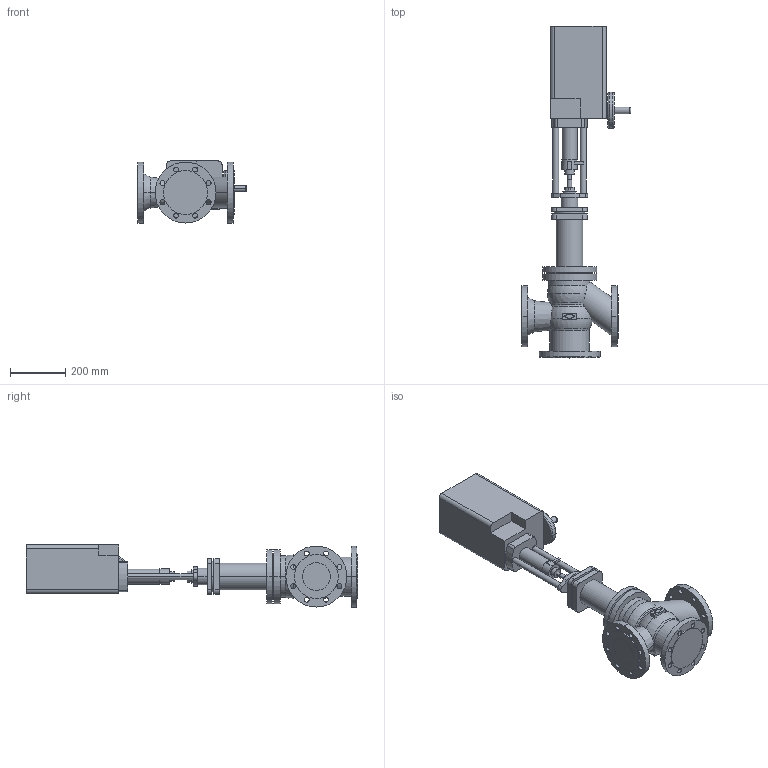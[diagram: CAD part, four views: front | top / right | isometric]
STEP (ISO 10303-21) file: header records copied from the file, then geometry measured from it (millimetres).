
FILE_DESCRIPTION(('OneSpaceDesigner STEP Export'),'2;1');
FILE_NAME('c000002458.stp','2006-09-21T11:52:55',(''),(''),'OneSpace Designer STEP processor for AP214 (Solid Model)','OneSpace Designer 13.20A 18-Aug-2005 (C) CoCreate Software GmbH','');
FILE_SCHEMA(('AUTOMOTIVE_DESIGN { 1 0 10303 214 1 1 1 1 }'));
Length unit declared in the file: millimetre
Products named in the file (2): 1; 2
Bounding box: 396.6 x 1197.2 x 224 mm (x, y, z)
Volume: 24903176.2 mm3; surface area: 1080617.2 mm2
Topology: 2 solids, 2 shells, 260 faces, 656 edges, 431 vertices
Faces by surface type: cylinder 134, plane 102, torus 16, sphere 4, cone 4
Entity records: 7244 total; most frequent: CARTESIAN_POINT 1383, ORIENTED_EDGE 1304, DIRECTION 1081, EDGE_CURVE 652, VERTEX_POINT 431, AXIS2_PLACEMENT_3D 391, EDGE_LOOP 343, VECTOR 299
